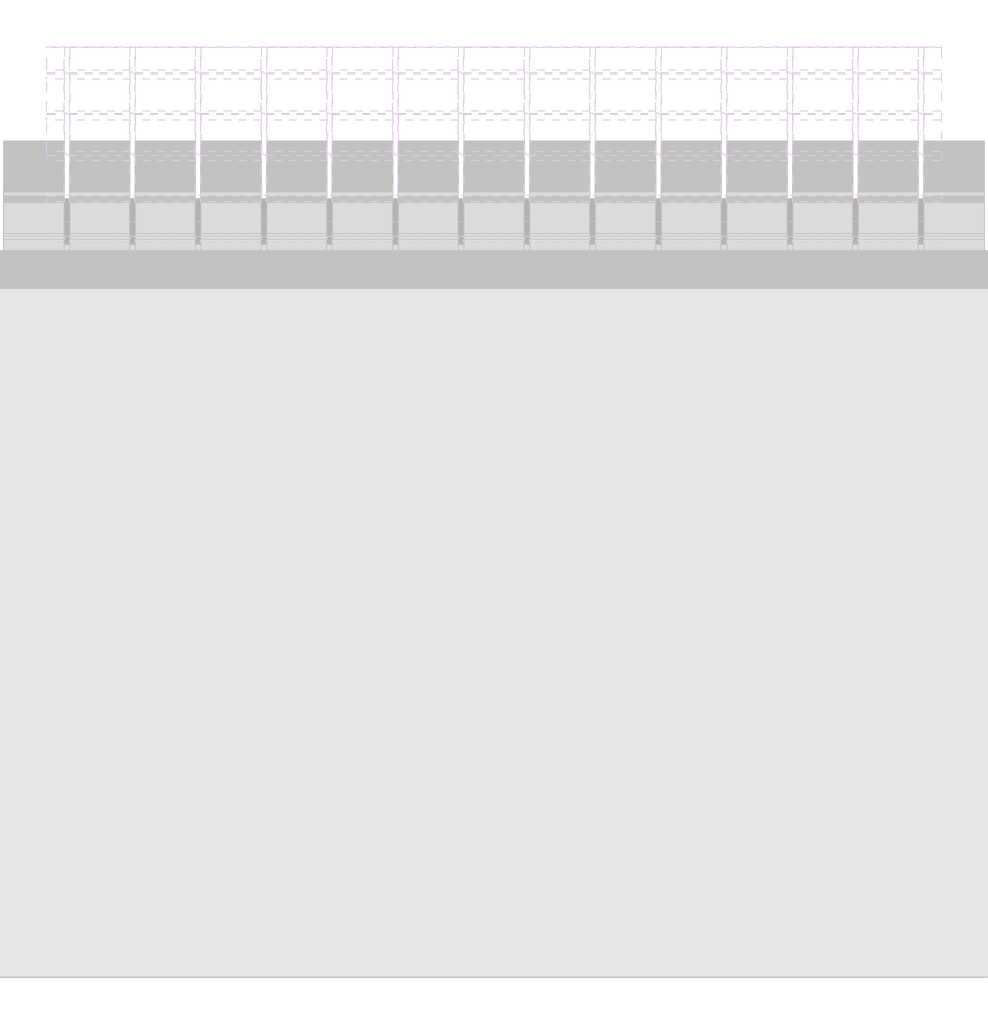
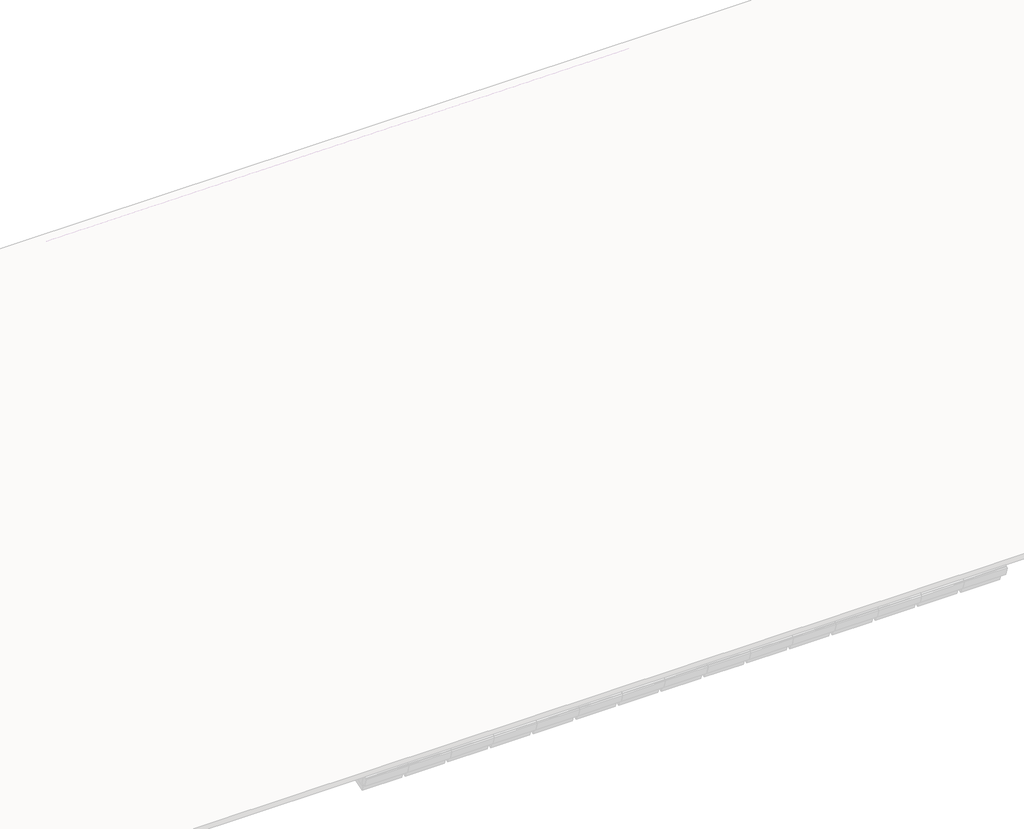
# One storey, part 34 of 57: 74 members, 50 plates.
"""IFC4 building model written with IfcOpenShell, lengths in millimetres."""

from ifc_helpers import new_model, si_unit, origin, place, context, project, spatial, transform, mapped, element, save
from components import rectangular_mullion_59984080, rectangular_mullion_2d2423ea, rectangular_mullion_caibro_e4384bba, rectangular_mullion_caibro_0993a3cf, rectangular_mullion_caibro_9bd7bc61, empty_system_panel_vazio_178faf58, empty_system_panel_vazio_2c78850d

model = new_model("IFC4")

# Units and contexts
model_context = context("Model", 3, world=origin())
ifc_project = project(units=[si_unit("LENGTHUNIT", "METRE", prefix="MILLI")], contexts=[model_context])

# Site, building, storey
site = spatial("IfcSite", under=ifc_project)
building = spatial("IfcBuilding", under=site)
storey = spatial("IfcBuildingStorey", under=building, Name="Nível 2", Elevation=4100.0)

# Members
placement = place(None, origin())
rectangular_mullion_shape = rectangular_mullion_59984080(model_context)
element("IfcMember", 1, ObjectType="Rectangular Mullion : Ripa", at=placement, inside=storey, context=model_context, shape_type="MappedRepresentation", body=[
    mapped(rectangular_mullion_shape, transform((26255.9256656, 8162.5832694, 3598.8241594), x_axis=(0.0, 0.9578262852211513, 0.2873478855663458), y_axis=(0.0, 0.2873478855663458, -0.9578262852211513), z_axis=(-1.0, 0.0, 0.0))),
])
element("IfcMember", 2, ObjectType="Rectangular Mullion : Ripa", at=placement, inside=storey, context=model_context, shape_type="MappedRepresentation", body=[
    mapped(rectangular_mullion_shape, transform((26852.980422, 8162.5832694, 3598.8241594), x_axis=(0.0, 0.9578262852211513, 0.2873478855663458), y_axis=(0.0, 0.2873478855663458, -0.9578262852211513), z_axis=(-1.0, 0.0, 0.0))),
])
element("IfcMember", 3, ObjectType="Rectangular Mullion : Ripa", at=placement, inside=storey, context=model_context, shape_type="MappedRepresentation", body=[
    mapped(rectangular_mullion_shape, transform((27450.0351784, 8162.5832694, 3598.8241594), x_axis=(0.0, 0.9578262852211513, 0.2873478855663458), y_axis=(0.0, 0.2873478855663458, -0.9578262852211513), z_axis=(-1.0, 0.0, 0.0))),
])
element("IfcMember", 4, ObjectType="Rectangular Mullion : Ripa", at=placement, inside=storey, context=model_context, shape_type="MappedRepresentation", body=[
    mapped(rectangular_mullion_shape, transform((26255.9256656, 8532.7605281, 3709.877337), x_axis=(0.0, 0.9578262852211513, 0.2873478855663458), y_axis=(0.0, 0.2873478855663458, -0.9578262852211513), z_axis=(-1.0, 0.0, 0.0))),
])
element("IfcMember", 5, ObjectType="Rectangular Mullion : Ripa", at=placement, inside=storey, context=model_context, shape_type="MappedRepresentation", body=[
    mapped(rectangular_mullion_shape, transform((26852.980422, 8532.7605281, 3709.877337), x_axis=(0.0, 0.9578262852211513, 0.2873478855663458), y_axis=(0.0, 0.2873478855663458, -0.9578262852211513), z_axis=(-1.0, 0.0, 0.0))),
])
element("IfcMember", 6, ObjectType="Rectangular Mullion : Ripa", at=placement, inside=storey, context=model_context, shape_type="MappedRepresentation", body=[
    mapped(rectangular_mullion_shape, transform((27450.0351784, 8532.7605281, 3709.877337), x_axis=(0.0, 0.9578262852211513, 0.2873478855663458), y_axis=(0.0, 0.2873478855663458, -0.9578262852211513), z_axis=(-1.0, 0.0, 0.0))),
])
element("IfcMember", 7, ObjectType="Rectangular Mullion : Ripa", at=placement, inside=storey, context=model_context, shape_type="MappedRepresentation", body=[
    mapped(rectangular_mullion_shape, transform((26255.9256656, 8902.9377868, 3820.9305146), x_axis=(0.0, 0.9578262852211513, 0.2873478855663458), y_axis=(0.0, 0.2873478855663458, -0.9578262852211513), z_axis=(-1.0, 0.0, 0.0))),
])
element("IfcMember", 8, ObjectType="Rectangular Mullion : Ripa", at=placement, inside=storey, context=model_context, shape_type="MappedRepresentation", body=[
    mapped(rectangular_mullion_shape, transform((26852.980422, 8902.9377868, 3820.9305146), x_axis=(0.0, 0.9578262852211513, 0.2873478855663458), y_axis=(0.0, 0.2873478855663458, -0.9578262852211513), z_axis=(-1.0, 0.0, 0.0))),
])
element("IfcMember", 9, ObjectType="Rectangular Mullion : Ripa", at=placement, inside=storey, context=model_context, shape_type="MappedRepresentation", body=[
    mapped(rectangular_mullion_shape, transform((27450.0351784, 8902.9377868, 3820.9305146), x_axis=(0.0, 0.9578262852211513, 0.2873478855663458), y_axis=(0.0, 0.2873478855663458, -0.9578262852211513), z_axis=(-1.0, 0.0, 0.0))),
])
element("IfcMember", 10, ObjectType="Rectangular Mullion : Ripa", at=placement, inside=storey, context=model_context, shape_type="MappedRepresentation", body=[
    mapped(rectangular_mullion_shape, transform((25061.8161527, 9273.1150454, 3931.9836922), x_axis=(0.0, 0.9578262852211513, 0.2873478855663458), y_axis=(0.0, 0.2873478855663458, -0.9578262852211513), z_axis=(-1.0, 0.0, 0.0))),
])
element("IfcMember", 11, ObjectType="Rectangular Mullion : Ripa", at=placement, inside=storey, context=model_context, shape_type="MappedRepresentation", body=[
    mapped(rectangular_mullion_shape, transform((25658.8709092, 9273.1150454, 3931.9836922), x_axis=(0.0, 0.9578262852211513, 0.2873478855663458), y_axis=(0.0, 0.2873478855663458, -0.9578262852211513), z_axis=(-1.0, 0.0, 0.0))),
])
element("IfcMember", 12, ObjectType="Rectangular Mullion : Ripa", at=placement, inside=storey, context=model_context, shape_type="MappedRepresentation", body=[
    mapped(rectangular_mullion_shape, transform((26255.9256656, 9273.1150454, 3931.9836922), x_axis=(0.0, 0.9578262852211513, 0.2873478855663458), y_axis=(0.0, 0.2873478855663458, -0.9578262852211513), z_axis=(-1.0, 0.0, 0.0))),
])
element("IfcMember", 13, ObjectType="Rectangular Mullion : Ripa", at=placement, inside=storey, context=model_context, shape_type="MappedRepresentation", body=[
    mapped(rectangular_mullion_shape, transform((26852.980422, 9273.1150454, 3931.9836922), x_axis=(0.0, 0.9578262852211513, 0.2873478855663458), y_axis=(0.0, 0.2873478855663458, -0.9578262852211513), z_axis=(-1.0, 0.0, 0.0))),
])
element("IfcMember", 14, ObjectType="Rectangular Mullion : Ripa", at=placement, inside=storey, context=model_context, shape_type="MappedRepresentation", body=[
    mapped(rectangular_mullion_shape, transform((27450.0351784, 9273.1150454, 3931.9836922), x_axis=(0.0, 0.9578262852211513, 0.2873478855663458), y_axis=(0.0, 0.2873478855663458, -0.9578262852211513), z_axis=(-1.0, 0.0, 0.0))),
])
element("IfcMember", 15, ObjectType="Rectangular Mullion : Ripa", at=placement, inside=storey, context=model_context, shape_type="MappedRepresentation", body=[
    mapped(rectangular_mullion_shape, transform((25061.8161527, 9643.2923041, 4043.0368698), x_axis=(0.0, 0.9578262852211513, 0.2873478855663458), y_axis=(0.0, 0.2873478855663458, -0.9578262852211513), z_axis=(-1.0, 0.0, 0.0))),
])
element("IfcMember", 16, ObjectType="Rectangular Mullion : Ripa", at=placement, inside=storey, context=model_context, shape_type="MappedRepresentation", body=[
    mapped(rectangular_mullion_shape, transform((25658.8709092, 9643.2923041, 4043.0368698), x_axis=(0.0, 0.9578262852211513, 0.2873478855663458), y_axis=(0.0, 0.2873478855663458, -0.9578262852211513), z_axis=(-1.0, 0.0, 0.0))),
])
element("IfcMember", 17, ObjectType="Rectangular Mullion : Ripa", at=placement, inside=storey, context=model_context, shape_type="MappedRepresentation", body=[
    mapped(rectangular_mullion_shape, transform((26255.9256656, 9643.2923041, 4043.0368698), x_axis=(0.0, 0.9578262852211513, 0.2873478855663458), y_axis=(0.0, 0.2873478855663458, -0.9578262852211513), z_axis=(-1.0, 0.0, 0.0))),
])
element("IfcMember", 18, ObjectType="Rectangular Mullion : Ripa", at=placement, inside=storey, context=model_context, shape_type="MappedRepresentation", body=[
    mapped(rectangular_mullion_shape, transform((26852.980422, 9643.2923041, 4043.0368698), x_axis=(0.0, 0.9578262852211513, 0.2873478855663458), y_axis=(0.0, 0.2873478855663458, -0.9578262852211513), z_axis=(-1.0, 0.0, 0.0))),
])
element("IfcMember", 19, ObjectType="Rectangular Mullion : Ripa", at=placement, inside=storey, context=model_context, shape_type="MappedRepresentation", body=[
    mapped(rectangular_mullion_shape, transform((27450.0351784, 9643.2923041, 4043.0368698), x_axis=(0.0, 0.9578262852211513, 0.2873478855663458), y_axis=(0.0, 0.2873478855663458, -0.9578262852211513), z_axis=(-1.0, 0.0, 0.0))),
])
element("IfcMember", 20, ObjectType="Rectangular Mullion : Ripa", at=placement, inside=storey, context=model_context, shape_type="MappedRepresentation", body=[
    mapped(rectangular_mullion_shape, transform((24464.7613963, 10013.4695628, 4154.0900474), x_axis=(0.0, 0.9578262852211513, 0.2873478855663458), y_axis=(0.0, 0.2873478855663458, -0.9578262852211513), z_axis=(-1.0, 0.0, 0.0))),
])
element("IfcMember", 21, ObjectType="Rectangular Mullion : Ripa", at=placement, inside=storey, context=model_context, shape_type="MappedRepresentation", body=[
    mapped(rectangular_mullion_shape, transform((25061.8161527, 10013.4695628, 4154.0900474), x_axis=(0.0, 0.9578262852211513, 0.2873478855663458), y_axis=(0.0, 0.2873478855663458, -0.9578262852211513), z_axis=(-1.0, 0.0, 0.0))),
])
element("IfcMember", 22, ObjectType="Rectangular Mullion : Ripa", at=placement, inside=storey, context=model_context, shape_type="MappedRepresentation", body=[
    mapped(rectangular_mullion_shape, transform((25658.8709092, 10013.4695628, 4154.0900474), x_axis=(0.0, 0.9578262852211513, 0.2873478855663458), y_axis=(0.0, 0.2873478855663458, -0.9578262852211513), z_axis=(-1.0, 0.0, 0.0))),
])
element("IfcMember", 23, ObjectType="Rectangular Mullion : Ripa", at=placement, inside=storey, context=model_context, shape_type="MappedRepresentation", body=[
    mapped(rectangular_mullion_shape, transform((24464.7613963, 10383.6468214, 4265.143225), x_axis=(0.0, 0.9578262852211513, 0.2873478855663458), y_axis=(0.0, 0.2873478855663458, -0.9578262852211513), z_axis=(-1.0, 0.0, 0.0))),
])
element("IfcMember", 24, ObjectType="Rectangular Mullion : Ripa", at=placement, inside=storey, context=model_context, shape_type="MappedRepresentation", body=[
    mapped(rectangular_mullion_shape, transform((25061.8161527, 10383.6468214, 4265.143225), x_axis=(0.0, 0.9578262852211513, 0.2873478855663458), y_axis=(0.0, 0.2873478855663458, -0.9578262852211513), z_axis=(-1.0, 0.0, 0.0))),
])
element("IfcMember", 25, ObjectType="Rectangular Mullion : Ripa", at=placement, inside=storey, context=model_context, shape_type="MappedRepresentation", body=[
    mapped(rectangular_mullion_shape, transform((25658.8709092, 10383.6468214, 4265.143225), x_axis=(0.0, 0.9578262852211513, 0.2873478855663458), y_axis=(0.0, 0.2873478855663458, -0.9578262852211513), z_axis=(-1.0, 0.0, 0.0))),
])
element("IfcMember", 26, ObjectType="Rectangular Mullion : Ripa", at=placement, inside=storey, context=model_context, shape_type="MappedRepresentation", body=[
    mapped(rectangular_mullion_shape, transform((24464.7613963, 10753.8240801, 4376.1964026), x_axis=(0.0, 0.9578262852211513, 0.2873478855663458), y_axis=(0.0, 0.2873478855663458, -0.9578262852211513), z_axis=(-1.0, 0.0, 0.0))),
])
element("IfcMember", 27, ObjectType="Rectangular Mullion : Ripa", at=placement, inside=storey, context=model_context, shape_type="MappedRepresentation", body=[
    mapped(rectangular_mullion_shape, transform((25061.8161527, 10753.8240801, 4376.1964026), x_axis=(0.0, 0.9578262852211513, 0.2873478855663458), y_axis=(0.0, 0.2873478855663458, -0.9578262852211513), z_axis=(-1.0, 0.0, 0.0))),
])
element("IfcMember", 28, ObjectType="Rectangular Mullion : Ripa", at=placement, inside=storey, context=model_context, shape_type="MappedRepresentation", body=[
    mapped(rectangular_mullion_shape, transform((25658.8709092, 10753.8240801, 4376.1964026), x_axis=(0.0, 0.9578262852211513, 0.2873478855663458), y_axis=(0.0, 0.2873478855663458, -0.9578262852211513), z_axis=(-1.0, 0.0, 0.0))),
])
element("IfcMember", 29, ObjectType="Rectangular Mullion : Ripa", at=placement, inside=storey, context=model_context, shape_type="MappedRepresentation", body=[
    mapped(rectangular_mullion_shape, transform((24464.7613963, 11124.0013387, 4487.2495802), x_axis=(0.0, 0.9578262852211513, 0.2873478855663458), y_axis=(0.0, 0.2873478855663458, -0.9578262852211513), z_axis=(-1.0, 0.0, 0.0))),
])
element("IfcMember", 30, ObjectType="Rectangular Mullion : Ripa", at=placement, inside=storey, context=model_context, shape_type="MappedRepresentation", body=[
    mapped(rectangular_mullion_shape, transform((24464.7613963, 11494.1785974, 4598.3027578), x_axis=(0.0, 0.9578262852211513, 0.2873478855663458), y_axis=(0.0, 0.2873478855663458, -0.9578262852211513), z_axis=(-1.0, 0.0, 0.0))),
])
element("IfcMember", 31, ObjectType="Rectangular Mullion : Ripa", at=placement, inside=storey, context=model_context, shape_type="MappedRepresentation", body=[
    mapped(rectangular_mullion_shape, transform((24464.7613963, 11864.3558561, 4709.3559354), x_axis=(0.0, 0.9578262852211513, 0.2873478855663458), y_axis=(0.0, 0.2873478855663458, -0.9578262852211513), z_axis=(-1.0, 0.0, 0.0))),
])
rectangular_mullion_2_shape = rectangular_mullion_2d2423ea(model_context)
element("IfcMember", 32, ObjectType="Rectangular Mullion : Terça", at=placement, inside=storey, context=model_context, shape_type="MappedRepresentation", body=[
    mapped(rectangular_mullion_2_shape, transform((25061.8161527, 9159.0196393, 3835.1132313), x_axis=(0.0, 0.9578262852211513, 0.2873478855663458), y_axis=(0.0, 0.2873478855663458, -0.9578262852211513), z_axis=(-1.0, 0.0, 0.0))),
])
element("IfcMember", 33, ObjectType="Rectangular Mullion : Terça", at=placement, inside=storey, context=model_context, shape_type="MappedRepresentation", body=[
    mapped(rectangular_mullion_2_shape, transform((25658.8709092, 9159.0196393, 3835.1132313), x_axis=(0.0, 0.9578262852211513, 0.2873478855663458), y_axis=(0.0, 0.2873478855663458, -0.9578262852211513), z_axis=(-1.0, 0.0, 0.0))),
])
element("IfcMember", 34, ObjectType="Rectangular Mullion : Terça", at=placement, inside=storey, context=model_context, shape_type="MappedRepresentation", body=[
    mapped(rectangular_mullion_2_shape, transform((26255.9256656, 9159.0196393, 3835.1132313), x_axis=(0.0, 0.9578262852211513, 0.2873478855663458), y_axis=(0.0, 0.2873478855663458, -0.9578262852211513), z_axis=(-1.0, 0.0, 0.0))),
])
element("IfcMember", 35, ObjectType="Rectangular Mullion : Terça", at=placement, inside=storey, context=model_context, shape_type="MappedRepresentation", body=[
    mapped(rectangular_mullion_2_shape, transform((26852.980422, 9159.0196393, 3835.1132313), x_axis=(0.0, 0.9578262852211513, 0.2873478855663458), y_axis=(0.0, 0.2873478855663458, -0.9578262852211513), z_axis=(-1.0, 0.0, 0.0))),
])
element("IfcMember", 36, ObjectType="Rectangular Mullion : Terça", at=placement, inside=storey, context=model_context, shape_type="MappedRepresentation", body=[
    mapped(rectangular_mullion_2_shape, transform((27450.0351784, 9159.0196393, 3835.1132313), x_axis=(0.0, 0.9578262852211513, 0.2873478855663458), y_axis=(0.0, 0.2873478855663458, -0.9578262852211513), z_axis=(-1.0, 0.0, 0.0))),
])
element("IfcMember", 37, ObjectType="Rectangular Mullion : Terça", at=placement, inside=storey, context=model_context, shape_type="MappedRepresentation", body=[
    mapped(rectangular_mullion_2_shape, transform((24464.7613963, 11285.144311, 4472.9506328), x_axis=(0.0, 0.9578262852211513, 0.2873478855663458), y_axis=(0.0, 0.2873478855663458, -0.9578262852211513), z_axis=(-1.0, 0.0, 0.0))),
])
rectangular_mullion_caibro_shape = rectangular_mullion_caibro_e4384bba(model_context)
element("IfcMember", 38, ObjectType="Rectangular Mullion : Caibro", at=placement, inside=storey, context=model_context, shape_type="MappedRepresentation", body=[
    mapped(rectangular_mullion_caibro_shape, transform((24439.7613963, 10013.4695628, 4154.0900474), x_axis=(1.0, 0.0, 0.0), y_axis=(0.0, 0.2873478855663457, -0.9578262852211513), z_axis=(0.0, 0.9578262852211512, 0.28734788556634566))),
])
element("IfcMember", 39, ObjectType="Rectangular Mullion : Caibro", at=placement, inside=storey, context=model_context, shape_type="MappedRepresentation", body=[
    mapped(rectangular_mullion_caibro_shape, transform((24439.7613963, 10383.6468214, 4265.143225), x_axis=(1.0, 0.0, 0.0), y_axis=(0.0, 0.28734788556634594, -0.9578262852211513), z_axis=(0.0, 0.9578262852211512, 0.2873478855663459))),
])
element("IfcMember", 40, ObjectType="Rectangular Mullion : Caibro", at=placement, inside=storey, context=model_context, shape_type="MappedRepresentation", body=[
    mapped(rectangular_mullion_caibro_shape, transform((24439.7613963, 10753.8240801, 4376.1964026), x_axis=(1.0, 0.0, 0.0), y_axis=(0.0, 0.28734788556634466, -0.9578262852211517), z_axis=(0.0, 0.9578262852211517, 0.28734788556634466))),
])
element("IfcMember", 41, ObjectType="Rectangular Mullion : Caibro", at=placement, inside=storey, context=model_context, shape_type="MappedRepresentation", body=[
    mapped(rectangular_mullion_caibro_shape, transform((24439.7613963, 11124.0013387, 4487.2495802), x_axis=(1.0, 0.0, 0.0), y_axis=(0.0, 0.28734788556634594, -0.9578262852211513), z_axis=(0.0, 0.9578262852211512, 0.2873478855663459))),
])
element("IfcMember", 42, ObjectType="Rectangular Mullion : Caibro", at=placement, inside=storey, context=model_context, shape_type="MappedRepresentation", body=[
    mapped(rectangular_mullion_caibro_shape, transform((24439.7613963, 11494.1785974, 4598.3027578), x_axis=(1.0, 0.0, 0.0), y_axis=(0.0, 0.287347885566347, -0.9578262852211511), z_axis=(0.0, 0.9578262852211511, 0.287347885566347))),
])
element("IfcMember", 43, ObjectType="Rectangular Mullion : Caibro", at=placement, inside=storey, context=model_context, shape_type="MappedRepresentation", body=[
    mapped(rectangular_mullion_caibro_shape, transform((24439.7613963, 11864.3558561, 4709.3559354), x_axis=(1.0, 0.0, 0.0), y_axis=(0.0, 0.28734788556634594, -0.9578262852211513), z_axis=(0.0, 0.9578262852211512, 0.2873478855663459))),
])
element("IfcMember", 44, ObjectType="Rectangular Mullion : Caibro", at=placement, inside=storey, context=model_context, shape_type="MappedRepresentation", body=[
    mapped(rectangular_mullion_caibro_shape, transform((25036.8161527, 9273.1150454, 3931.9836922), x_axis=(1.0, 0.0, 0.0), y_axis=(0.0, 0.2873478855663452, -0.9578262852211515), z_axis=(0.0, 0.9578262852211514, 0.28734788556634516))),
])
element("IfcMember", 45, ObjectType="Rectangular Mullion : Caibro", at=placement, inside=storey, context=model_context, shape_type="MappedRepresentation", body=[
    mapped(rectangular_mullion_caibro_shape, transform((25036.8161527, 9643.2923041, 4043.0368698), x_axis=(1.0, 0.0, 0.0), y_axis=(0.0, 0.28734788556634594, -0.9578262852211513), z_axis=(0.0, 0.9578262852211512, 0.2873478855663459))),
])
element("IfcMember", 46, ObjectType="Rectangular Mullion : Caibro", at=placement, inside=storey, context=model_context, shape_type="MappedRepresentation", body=[
    mapped(rectangular_mullion_caibro_shape, transform((25036.8161527, 10013.4695628, 4154.0900474), x_axis=(1.0, 0.0, 0.0), y_axis=(0.0, 0.2873478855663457, -0.9578262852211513), z_axis=(0.0, 0.9578262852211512, 0.28734788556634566))),
])
element("IfcMember", 47, ObjectType="Rectangular Mullion : Caibro", at=placement, inside=storey, context=model_context, shape_type="MappedRepresentation", body=[
    mapped(rectangular_mullion_caibro_shape, transform((25036.8161527, 10383.6468214, 4265.143225), x_axis=(1.0, 0.0, 0.0), y_axis=(0.0, 0.28734788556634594, -0.9578262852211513), z_axis=(0.0, 0.9578262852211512, 0.2873478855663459))),
])
element("IfcMember", 48, ObjectType="Rectangular Mullion : Caibro", at=placement, inside=storey, context=model_context, shape_type="MappedRepresentation", body=[
    mapped(rectangular_mullion_caibro_shape, transform((25036.8161527, 10753.8240801, 4376.1964026), x_axis=(1.0, 0.0, 0.0), y_axis=(0.0, 0.28734788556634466, -0.9578262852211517), z_axis=(0.0, 0.9578262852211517, 0.28734788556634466))),
])
element("IfcMember", 49, ObjectType="Rectangular Mullion : Caibro", at=placement, inside=storey, context=model_context, shape_type="MappedRepresentation", body=[
    mapped(rectangular_mullion_caibro_shape, transform((25633.8709092, 9273.1150454, 3931.9836922), x_axis=(1.0, 0.0, 0.0), y_axis=(0.0, 0.2873478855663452, -0.9578262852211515), z_axis=(0.0, 0.9578262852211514, 0.28734788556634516))),
])
element("IfcMember", 50, ObjectType="Rectangular Mullion : Caibro", at=placement, inside=storey, context=model_context, shape_type="MappedRepresentation", body=[
    mapped(rectangular_mullion_caibro_shape, transform((25633.8709092, 9643.2923041, 4043.0368698), x_axis=(1.0, 0.0, 0.0), y_axis=(0.0, 0.2873478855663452, -0.9578262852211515), z_axis=(0.0, 0.9578262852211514, 0.28734788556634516))),
])
element("IfcMember", 51, ObjectType="Rectangular Mullion : Caibro", at=placement, inside=storey, context=model_context, shape_type="MappedRepresentation", body=[
    mapped(rectangular_mullion_caibro_shape, transform((25633.8709092, 10013.4695628, 4154.0900474), x_axis=(1.0, 0.0, 0.0), y_axis=(0.0, 0.28734788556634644, -0.9578262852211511), z_axis=(0.0, 0.957826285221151, 0.2873478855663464))),
])
element("IfcMember", 52, ObjectType="Rectangular Mullion : Caibro", at=placement, inside=storey, context=model_context, shape_type="MappedRepresentation", body=[
    mapped(rectangular_mullion_caibro_shape, transform((25633.8709092, 10383.6468214, 4265.143225), x_axis=(1.0, 0.0, 0.0), y_axis=(0.0, 0.28734788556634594, -0.9578262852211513), z_axis=(0.0, 0.9578262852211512, 0.2873478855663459))),
])
element("IfcMember", 53, ObjectType="Rectangular Mullion : Caibro", at=placement, inside=storey, context=model_context, shape_type="MappedRepresentation", body=[
    mapped(rectangular_mullion_caibro_shape, transform((25633.8709092, 10753.8240801, 4376.1964026), x_axis=(1.0, 0.0, 0.0), y_axis=(0.0, 0.28734788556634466, -0.9578262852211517), z_axis=(0.0, 0.9578262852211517, 0.28734788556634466))),
])
element("IfcMember", 54, ObjectType="Rectangular Mullion : Caibro", at=placement, inside=storey, context=model_context, shape_type="MappedRepresentation", body=[
    mapped(rectangular_mullion_caibro_shape, transform((26230.9256656, 8162.5832694, 3598.8241594), x_axis=(1.0, 0.0, 0.0), y_axis=(0.0, 0.28734788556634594, -0.9578262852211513), z_axis=(0.0, 0.9578262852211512, 0.2873478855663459))),
])
element("IfcMember", 55, ObjectType="Rectangular Mullion : Caibro", at=placement, inside=storey, context=model_context, shape_type="MappedRepresentation", body=[
    mapped(rectangular_mullion_caibro_shape, transform((26230.9256656, 8532.7605281, 3709.877337), x_axis=(1.0, 0.0, 0.0), y_axis=(0.0, 0.2873478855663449, -0.9578262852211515), z_axis=(0.0, 0.9578262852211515, 0.2873478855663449))),
])
element("IfcMember", 56, ObjectType="Rectangular Mullion : Caibro", at=placement, inside=storey, context=model_context, shape_type="MappedRepresentation", body=[
    mapped(rectangular_mullion_caibro_shape, transform((26230.9256656, 8902.9377868, 3820.9305146), x_axis=(1.0, 0.0, 0.0), y_axis=(0.0, 0.2873478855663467, -0.9578262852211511), z_axis=(0.0, 0.9578262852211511, 0.2873478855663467))),
])
element("IfcMember", 57, ObjectType="Rectangular Mullion : Caibro", at=placement, inside=storey, context=model_context, shape_type="MappedRepresentation", body=[
    mapped(rectangular_mullion_caibro_shape, transform((26230.9256656, 9273.1150454, 3931.9836922), x_axis=(1.0, 0.0, 0.0), y_axis=(0.0, 0.2873478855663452, -0.9578262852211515), z_axis=(0.0, 0.9578262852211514, 0.28734788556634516))),
])
element("IfcMember", 58, ObjectType="Rectangular Mullion : Caibro", at=placement, inside=storey, context=model_context, shape_type="MappedRepresentation", body=[
    mapped(rectangular_mullion_caibro_shape, transform((26230.9256656, 9643.2923041, 4043.0368698), x_axis=(1.0, 0.0, 0.0), y_axis=(0.0, 0.2873478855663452, -0.9578262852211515), z_axis=(0.0, 0.9578262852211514, 0.28734788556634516))),
])
element("IfcMember", 59, ObjectType="Rectangular Mullion : Caibro", at=placement, inside=storey, context=model_context, shape_type="MappedRepresentation", body=[
    mapped(rectangular_mullion_caibro_shape, transform((26827.980422, 8162.5832694, 3598.8241594), x_axis=(1.0, 0.0, 0.0), y_axis=(0.0, 0.28734788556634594, -0.9578262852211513), z_axis=(0.0, 0.9578262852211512, 0.2873478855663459))),
])
element("IfcMember", 60, ObjectType="Rectangular Mullion : Caibro", at=placement, inside=storey, context=model_context, shape_type="MappedRepresentation", body=[
    mapped(rectangular_mullion_caibro_shape, transform((26827.980422, 8532.7605281, 3709.877337), x_axis=(1.0, 0.0, 0.0), y_axis=(0.0, 0.2873478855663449, -0.9578262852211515), z_axis=(0.0, 0.9578262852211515, 0.2873478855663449))),
])
element("IfcMember", 61, ObjectType="Rectangular Mullion : Caibro", at=placement, inside=storey, context=model_context, shape_type="MappedRepresentation", body=[
    mapped(rectangular_mullion_caibro_shape, transform((26827.980422, 8902.9377868, 3820.9305146), x_axis=(1.0, 0.0, 0.0), y_axis=(0.0, 0.2873478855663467, -0.9578262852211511), z_axis=(0.0, 0.9578262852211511, 0.2873478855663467))),
])
element("IfcMember", 62, ObjectType="Rectangular Mullion : Caibro", at=placement, inside=storey, context=model_context, shape_type="MappedRepresentation", body=[
    mapped(rectangular_mullion_caibro_shape, transform((26827.980422, 9273.1150454, 3931.9836922), x_axis=(1.0, 0.0, 0.0), y_axis=(0.0, 0.2873478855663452, -0.9578262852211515), z_axis=(0.0, 0.9578262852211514, 0.28734788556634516))),
])
element("IfcMember", 63, ObjectType="Rectangular Mullion : Caibro", at=placement, inside=storey, context=model_context, shape_type="MappedRepresentation", body=[
    mapped(rectangular_mullion_caibro_shape, transform((26827.980422, 9643.2923041, 4043.0368698), x_axis=(1.0, 0.0, 0.0), y_axis=(0.0, 0.2873478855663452, -0.9578262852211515), z_axis=(0.0, 0.9578262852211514, 0.28734788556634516))),
])
element("IfcMember", 64, ObjectType="Rectangular Mullion : Caibro", at=placement, inside=storey, context=model_context, shape_type="MappedRepresentation", body=[
    mapped(rectangular_mullion_caibro_shape, transform((27425.0351784, 8162.5832694, 3598.8241594), x_axis=(1.0, 0.0, 0.0), y_axis=(0.0, 0.28734788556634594, -0.9578262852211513), z_axis=(0.0, 0.9578262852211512, 0.2873478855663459))),
])
element("IfcMember", 65, ObjectType="Rectangular Mullion : Caibro", at=placement, inside=storey, context=model_context, shape_type="MappedRepresentation", body=[
    mapped(rectangular_mullion_caibro_shape, transform((27425.0351784, 8532.7605281, 3709.877337), x_axis=(1.0, 0.0, 0.0), y_axis=(0.0, 0.2873478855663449, -0.9578262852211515), z_axis=(0.0, 0.9578262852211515, 0.2873478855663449))),
])
element("IfcMember", 66, ObjectType="Rectangular Mullion : Caibro", at=placement, inside=storey, context=model_context, shape_type="MappedRepresentation", body=[
    mapped(rectangular_mullion_caibro_shape, transform((27425.0351784, 8902.9377868, 3820.9305146), x_axis=(1.0, 0.0, 0.0), y_axis=(0.0, 0.2873478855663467, -0.9578262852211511), z_axis=(0.0, 0.9578262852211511, 0.2873478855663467))),
])
element("IfcMember", 67, ObjectType="Rectangular Mullion : Caibro", at=placement, inside=storey, context=model_context, shape_type="MappedRepresentation", body=[
    mapped(rectangular_mullion_caibro_shape, transform((27425.0351784, 9273.1150454, 3931.9836922), x_axis=(1.0, 0.0, 0.0), y_axis=(0.0, 0.2873478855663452, -0.9578262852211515), z_axis=(0.0, 0.9578262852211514, 0.28734788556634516))),
])
element("IfcMember", 68, ObjectType="Rectangular Mullion : Caibro", at=placement, inside=storey, context=model_context, shape_type="MappedRepresentation", body=[
    mapped(rectangular_mullion_caibro_shape, transform((27425.0351784, 9643.2923041, 4043.0368698), x_axis=(1.0, 0.0, 0.0), y_axis=(0.0, 0.28734788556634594, -0.9578262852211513), z_axis=(0.0, 0.9578262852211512, 0.2873478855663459))),
])
rectangular_mullion_caibro_2_shape = rectangular_mullion_caibro_0993a3cf(model_context)
element("IfcMember", 69, ObjectType="Rectangular Mullion : Caibro", at=placement, inside=storey, context=model_context, shape_type="MappedRepresentation", body=[
    mapped(rectangular_mullion_caibro_2_shape, transform((25036.8161527, 9159.0196393, 3835.1132313), x_axis=(1.0, 0.0, 0.0), y_axis=(0.0, 0.28734788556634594, -0.9578262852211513), z_axis=(0.0, 0.9578262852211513, 0.28734788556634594))),
])
element("IfcMember", 70, ObjectType="Rectangular Mullion : Caibro", at=placement, inside=storey, context=model_context, shape_type="MappedRepresentation", body=[
    mapped(rectangular_mullion_caibro_2_shape, transform((25633.8709092, 9159.0196393, 3835.1132313), x_axis=(1.0, 0.0, 0.0), y_axis=(0.0, 0.2873478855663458, -0.9578262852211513), z_axis=(0.0, 0.9578262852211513, 0.2873478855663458))),
])
element("IfcMember", 71, ObjectType="Rectangular Mullion : Caibro", at=placement, inside=storey, context=model_context, shape_type="MappedRepresentation", body=[
    mapped(rectangular_mullion_caibro_2_shape, transform((26230.9256656, 9159.0196393, 3835.1132313), x_axis=(1.0, 0.0, 0.0), y_axis=(0.0, 0.2873478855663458, -0.9578262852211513), z_axis=(0.0, 0.9578262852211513, 0.2873478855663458))),
])
element("IfcMember", 72, ObjectType="Rectangular Mullion : Caibro", at=placement, inside=storey, context=model_context, shape_type="MappedRepresentation", body=[
    mapped(rectangular_mullion_caibro_2_shape, transform((26827.980422, 9159.0196393, 3835.1132313), x_axis=(1.0, 0.0, 0.0), y_axis=(0.0, 0.2873478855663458, -0.9578262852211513), z_axis=(0.0, 0.9578262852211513, 0.2873478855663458))),
])
element("IfcMember", 73, ObjectType="Rectangular Mullion : Caibro", at=placement, inside=storey, context=model_context, shape_type="MappedRepresentation", body=[
    mapped(rectangular_mullion_caibro_2_shape, transform((27425.0351784, 9159.0196393, 3835.1132313), x_axis=(1.0, 0.0, 0.0), y_axis=(0.0, 0.28734788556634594, -0.9578262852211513), z_axis=(0.0, 0.9578262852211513, 0.28734788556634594))),
])
rectangular_mullion_caibro_3_shape = rectangular_mullion_caibro_9bd7bc61(model_context)
element("IfcMember", 74, ObjectType="Rectangular Mullion : Caibro", at=placement, inside=storey, context=model_context, shape_type="MappedRepresentation", body=[
    mapped(rectangular_mullion_caibro_3_shape, transform((24439.7613963, 11285.144311, 4472.9506328), x_axis=(1.0, 0.0, 0.0), y_axis=(0.0, 0.28734788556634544, -0.9578262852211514), z_axis=(0.0, 0.9578262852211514, 0.28734788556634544))),
])

# Plates
empty_system_panel_vazio_shape = empty_system_panel_vazio_178faf58(model_context)
element("IfcPlate", 75, ObjectType="Empty System Panel : Vazio", at=placement, inside=storey, context=model_context, shape_type="MappedRepresentation", body=[
    mapped(empty_system_panel_vazio_shape, transform((26529.4530438, 8162.5832694, 3598.8241594), x_axis=(1.0, 0.0, 0.0), y_axis=(0.0, 0.2873478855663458, -0.9578262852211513), z_axis=(0.0, 0.9578262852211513, 0.2873478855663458))),
])
element("IfcPlate", 76, ObjectType="Empty System Panel : Vazio", at=placement, inside=storey, context=model_context, shape_type="MappedRepresentation", body=[
    mapped(empty_system_panel_vazio_shape, transform((27126.5078002, 8162.5832694, 3598.8241594), x_axis=(1.0, 0.0, 0.0), y_axis=(0.0, 0.2873478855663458, -0.9578262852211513), z_axis=(0.0, 0.9578262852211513, 0.2873478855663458))),
])
element("IfcPlate", 77, ObjectType="Empty System Panel : Vazio", at=placement, inside=storey, context=model_context, shape_type="MappedRepresentation", body=[
    mapped(empty_system_panel_vazio_shape, transform((27723.5625566, 8162.5832694, 3598.8241594), x_axis=(1.0, 0.0, 0.0), y_axis=(0.0, 0.2873478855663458, -0.9578262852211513), z_axis=(0.0, 0.9578262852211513, 0.2873478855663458))),
])
element("IfcPlate", 78, ObjectType="Empty System Panel : Vazio", at=placement, inside=storey, context=model_context, shape_type="MappedRepresentation", body=[
    mapped(empty_system_panel_vazio_shape, transform((26529.4530438, 8532.7605281, 3709.877337), x_axis=(1.0, 0.0, 0.0), y_axis=(0.0, 0.2873478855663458, -0.9578262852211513), z_axis=(0.0, 0.9578262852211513, 0.2873478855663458))),
])
element("IfcPlate", 79, ObjectType="Empty System Panel : Vazio", at=placement, inside=storey, context=model_context, shape_type="MappedRepresentation", body=[
    mapped(empty_system_panel_vazio_shape, transform((27126.5078002, 8532.7605281, 3709.877337), x_axis=(1.0, 0.0, 0.0), y_axis=(0.0, 0.2873478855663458, -0.9578262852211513), z_axis=(0.0, 0.9578262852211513, 0.2873478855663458))),
])
element("IfcPlate", 80, ObjectType="Empty System Panel : Vazio", at=placement, inside=storey, context=model_context, shape_type="MappedRepresentation", body=[
    mapped(empty_system_panel_vazio_shape, transform((27723.5625566, 8532.7605281, 3709.877337), x_axis=(1.0, 0.0, 0.0), y_axis=(0.0, 0.2873478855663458, -0.9578262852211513), z_axis=(0.0, 0.9578262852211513, 0.2873478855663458))),
])
element("IfcPlate", 81, ObjectType="Empty System Panel : Vazio", at=placement, inside=storey, context=model_context, shape_type="MappedRepresentation", body=[
    mapped(empty_system_panel_vazio_shape, transform((26529.4530438, 8902.9377868, 3820.9305146), x_axis=(1.0, 0.0, 0.0), y_axis=(0.0, 0.2873478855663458, -0.9578262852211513), z_axis=(0.0, 0.9578262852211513, 0.2873478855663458))),
])
element("IfcPlate", 82, ObjectType="Empty System Panel : Vazio", at=placement, inside=storey, context=model_context, shape_type="MappedRepresentation", body=[
    mapped(empty_system_panel_vazio_shape, transform((27126.5078002, 8902.9377868, 3820.9305146), x_axis=(1.0, 0.0, 0.0), y_axis=(0.0, 0.2873478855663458, -0.9578262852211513), z_axis=(0.0, 0.9578262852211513, 0.2873478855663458))),
])
element("IfcPlate", 83, ObjectType="Empty System Panel : Vazio", at=placement, inside=storey, context=model_context, shape_type="MappedRepresentation", body=[
    mapped(empty_system_panel_vazio_shape, transform((27723.5625566, 8902.9377868, 3820.9305146), x_axis=(1.0, 0.0, 0.0), y_axis=(0.0, 0.2873478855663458, -0.9578262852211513), z_axis=(0.0, 0.9578262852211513, 0.2873478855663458))),
])
element("IfcPlate", 84, ObjectType="Empty System Panel : Vazio", at=placement, inside=storey, context=model_context, shape_type="MappedRepresentation", body=[
    mapped(empty_system_panel_vazio_shape, transform((25335.3435309, 9273.1150454, 3931.9836922), x_axis=(1.0, 0.0, 0.0), y_axis=(0.0, 0.2873478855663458, -0.9578262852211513), z_axis=(0.0, 0.9578262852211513, 0.2873478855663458))),
])
element("IfcPlate", 85, ObjectType="Empty System Panel : Vazio", at=placement, inside=storey, context=model_context, shape_type="MappedRepresentation", body=[
    mapped(empty_system_panel_vazio_shape, transform((25932.3982874, 9273.1150454, 3931.9836922), x_axis=(1.0, 0.0, 0.0), y_axis=(0.0, 0.2873478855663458, -0.9578262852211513), z_axis=(0.0, 0.9578262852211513, 0.2873478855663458))),
])
element("IfcPlate", 86, ObjectType="Empty System Panel : Vazio", at=placement, inside=storey, context=model_context, shape_type="MappedRepresentation", body=[
    mapped(empty_system_panel_vazio_shape, transform((26529.4530438, 9273.1150454, 3931.9836922), x_axis=(1.0, 0.0, 0.0), y_axis=(0.0, 0.2873478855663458, -0.9578262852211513), z_axis=(0.0, 0.9578262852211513, 0.2873478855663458))),
])
element("IfcPlate", 87, ObjectType="Empty System Panel : Vazio", at=placement, inside=storey, context=model_context, shape_type="MappedRepresentation", body=[
    mapped(empty_system_panel_vazio_shape, transform((27126.5078002, 9273.1150454, 3931.9836922), x_axis=(1.0, 0.0, 0.0), y_axis=(0.0, 0.2873478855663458, -0.9578262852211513), z_axis=(0.0, 0.9578262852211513, 0.2873478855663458))),
])
element("IfcPlate", 88, ObjectType="Empty System Panel : Vazio", at=placement, inside=storey, context=model_context, shape_type="MappedRepresentation", body=[
    mapped(empty_system_panel_vazio_shape, transform((27723.5625566, 9273.1150454, 3931.9836922), x_axis=(1.0, 0.0, 0.0), y_axis=(0.0, 0.2873478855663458, -0.9578262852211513), z_axis=(0.0, 0.9578262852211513, 0.2873478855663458))),
])
element("IfcPlate", 89, ObjectType="Empty System Panel : Vazio", at=placement, inside=storey, context=model_context, shape_type="MappedRepresentation", body=[
    mapped(empty_system_panel_vazio_shape, transform((25335.3435309, 9643.2923041, 4043.0368698), x_axis=(1.0, 0.0, 0.0), y_axis=(0.0, 0.2873478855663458, -0.9578262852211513), z_axis=(0.0, 0.9578262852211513, 0.2873478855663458))),
])
element("IfcPlate", 90, ObjectType="Empty System Panel : Vazio", at=placement, inside=storey, context=model_context, shape_type="MappedRepresentation", body=[
    mapped(empty_system_panel_vazio_shape, transform((25932.3982874, 9643.2923041, 4043.0368698), x_axis=(1.0, 0.0, 0.0), y_axis=(0.0, 0.2873478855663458, -0.9578262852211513), z_axis=(0.0, 0.9578262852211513, 0.2873478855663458))),
])
element("IfcPlate", 91, ObjectType="Empty System Panel : Vazio", at=placement, inside=storey, context=model_context, shape_type="MappedRepresentation", body=[
    mapped(empty_system_panel_vazio_shape, transform((26529.4530438, 9643.2923041, 4043.0368698), x_axis=(1.0, 0.0, 0.0), y_axis=(0.0, 0.2873478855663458, -0.9578262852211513), z_axis=(0.0, 0.9578262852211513, 0.2873478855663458))),
])
element("IfcPlate", 92, ObjectType="Empty System Panel : Vazio", at=placement, inside=storey, context=model_context, shape_type="MappedRepresentation", body=[
    mapped(empty_system_panel_vazio_shape, transform((27126.5078002, 9643.2923041, 4043.0368698), x_axis=(1.0, 0.0, 0.0), y_axis=(0.0, 0.2873478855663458, -0.9578262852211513), z_axis=(0.0, 0.9578262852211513, 0.2873478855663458))),
])
element("IfcPlate", 93, ObjectType="Empty System Panel : Vazio", at=placement, inside=storey, context=model_context, shape_type="MappedRepresentation", body=[
    mapped(empty_system_panel_vazio_shape, transform((27723.5625566, 9643.2923041, 4043.0368698), x_axis=(1.0, 0.0, 0.0), y_axis=(0.0, 0.2873478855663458, -0.9578262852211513), z_axis=(0.0, 0.9578262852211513, 0.2873478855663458))),
])
element("IfcPlate", 94, ObjectType="Empty System Panel : Vazio", at=placement, inside=storey, context=model_context, shape_type="MappedRepresentation", body=[
    mapped(empty_system_panel_vazio_shape, transform((24141.2340181, 10013.4695628, 4154.0900474), x_axis=(1.0, 0.0, 0.0), y_axis=(0.0, 0.2873478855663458, -0.9578262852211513), z_axis=(0.0, 0.9578262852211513, 0.2873478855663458))),
])
element("IfcPlate", 95, ObjectType="Empty System Panel : Vazio", at=placement, inside=storey, context=model_context, shape_type="MappedRepresentation", body=[
    mapped(empty_system_panel_vazio_shape, transform((24738.2887745, 10013.4695628, 4154.0900474), x_axis=(1.0, 0.0, 0.0), y_axis=(0.0, 0.2873478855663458, -0.9578262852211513), z_axis=(0.0, 0.9578262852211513, 0.2873478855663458))),
])
element("IfcPlate", 96, ObjectType="Empty System Panel : Vazio", at=placement, inside=storey, context=model_context, shape_type="MappedRepresentation", body=[
    mapped(empty_system_panel_vazio_shape, transform((25335.3435309, 10013.4695628, 4154.0900474), x_axis=(1.0, 0.0, 0.0), y_axis=(0.0, 0.2873478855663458, -0.9578262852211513), z_axis=(0.0, 0.9578262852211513, 0.2873478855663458))),
])
element("IfcPlate", 97, ObjectType="Empty System Panel : Vazio", at=placement, inside=storey, context=model_context, shape_type="MappedRepresentation", body=[
    mapped(empty_system_panel_vazio_shape, transform((25932.3982874, 10013.4695628, 4154.0900474), x_axis=(1.0, 0.0, 0.0), y_axis=(0.0, 0.2873478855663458, -0.9578262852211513), z_axis=(0.0, 0.9578262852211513, 0.2873478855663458))),
])
element("IfcPlate", 98, ObjectType="Empty System Panel : Vazio", at=placement, inside=storey, context=model_context, shape_type="MappedRepresentation", body=[
    mapped(empty_system_panel_vazio_shape, transform((24141.2340181, 10383.6468214, 4265.143225), x_axis=(1.0, 0.0, 0.0), y_axis=(0.0, 0.2873478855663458, -0.9578262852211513), z_axis=(0.0, 0.9578262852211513, 0.2873478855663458))),
])
element("IfcPlate", 99, ObjectType="Empty System Panel : Vazio", at=placement, inside=storey, context=model_context, shape_type="MappedRepresentation", body=[
    mapped(empty_system_panel_vazio_shape, transform((24738.2887745, 10383.6468214, 4265.143225), x_axis=(1.0, 0.0, 0.0), y_axis=(0.0, 0.2873478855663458, -0.9578262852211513), z_axis=(0.0, 0.9578262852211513, 0.2873478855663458))),
])
element("IfcPlate", 100, ObjectType="Empty System Panel : Vazio", at=placement, inside=storey, context=model_context, shape_type="MappedRepresentation", body=[
    mapped(empty_system_panel_vazio_shape, transform((25335.3435309, 10383.6468214, 4265.143225), x_axis=(1.0, 0.0, 0.0), y_axis=(0.0, 0.2873478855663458, -0.9578262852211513), z_axis=(0.0, 0.9578262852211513, 0.2873478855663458))),
])
element("IfcPlate", 101, ObjectType="Empty System Panel : Vazio", at=placement, inside=storey, context=model_context, shape_type="MappedRepresentation", body=[
    mapped(empty_system_panel_vazio_shape, transform((25932.3982874, 10383.6468214, 4265.143225), x_axis=(1.0, 0.0, 0.0), y_axis=(0.0, 0.2873478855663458, -0.9578262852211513), z_axis=(0.0, 0.9578262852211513, 0.2873478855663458))),
])
element("IfcPlate", 102, ObjectType="Empty System Panel : Vazio", at=placement, inside=storey, context=model_context, shape_type="MappedRepresentation", body=[
    mapped(empty_system_panel_vazio_shape, transform((24141.2340181, 10753.8240801, 4376.1964026), x_axis=(1.0, 0.0, 0.0), y_axis=(0.0, 0.2873478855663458, -0.9578262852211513), z_axis=(0.0, 0.9578262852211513, 0.2873478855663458))),
])
element("IfcPlate", 103, ObjectType="Empty System Panel : Vazio", at=placement, inside=storey, context=model_context, shape_type="MappedRepresentation", body=[
    mapped(empty_system_panel_vazio_shape, transform((24738.2887745, 10753.8240801, 4376.1964026), x_axis=(1.0, 0.0, 0.0), y_axis=(0.0, 0.2873478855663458, -0.9578262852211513), z_axis=(0.0, 0.9578262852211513, 0.2873478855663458))),
])
element("IfcPlate", 104, ObjectType="Empty System Panel : Vazio", at=placement, inside=storey, context=model_context, shape_type="MappedRepresentation", body=[
    mapped(empty_system_panel_vazio_shape, transform((25335.3435309, 10753.8240801, 4376.1964026), x_axis=(1.0, 0.0, 0.0), y_axis=(0.0, 0.2873478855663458, -0.9578262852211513), z_axis=(0.0, 0.9578262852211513, 0.2873478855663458))),
])
element("IfcPlate", 105, ObjectType="Empty System Panel : Vazio", at=placement, inside=storey, context=model_context, shape_type="MappedRepresentation", body=[
    mapped(empty_system_panel_vazio_shape, transform((25932.3982874, 10753.8240801, 4376.1964026), x_axis=(1.0, 0.0, 0.0), y_axis=(0.0, 0.2873478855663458, -0.9578262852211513), z_axis=(0.0, 0.9578262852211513, 0.2873478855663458))),
])
element("IfcPlate", 106, ObjectType="Empty System Panel : Vazio", at=placement, inside=storey, context=model_context, shape_type="MappedRepresentation", body=[
    mapped(empty_system_panel_vazio_shape, transform((24141.2340181, 11124.0013387, 4487.2495802), x_axis=(1.0, 0.0, 0.0), y_axis=(0.0, 0.2873478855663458, -0.9578262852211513), z_axis=(0.0, 0.9578262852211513, 0.2873478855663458))),
])
element("IfcPlate", 107, ObjectType="Empty System Panel : Vazio", at=placement, inside=storey, context=model_context, shape_type="MappedRepresentation", body=[
    mapped(empty_system_panel_vazio_shape, transform((24738.2887745, 11124.0013387, 4487.2495802), x_axis=(1.0, 0.0, 0.0), y_axis=(0.0, 0.2873478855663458, -0.9578262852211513), z_axis=(0.0, 0.9578262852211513, 0.2873478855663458))),
])
element("IfcPlate", 108, ObjectType="Empty System Panel : Vazio", at=placement, inside=storey, context=model_context, shape_type="MappedRepresentation", body=[
    mapped(empty_system_panel_vazio_shape, transform((25335.3435309, 11124.0013387, 4487.2495802), x_axis=(1.0, 0.0, 0.0), y_axis=(0.0, 0.2873478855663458, -0.9578262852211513), z_axis=(0.0, 0.9578262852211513, 0.2873478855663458))),
])
element("IfcPlate", 109, ObjectType="Empty System Panel : Vazio", at=placement, inside=storey, context=model_context, shape_type="MappedRepresentation", body=[
    mapped(empty_system_panel_vazio_shape, transform((25932.3982874, 11124.0013387, 4487.2495802), x_axis=(1.0, 0.0, 0.0), y_axis=(0.0, 0.2873478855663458, -0.9578262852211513), z_axis=(0.0, 0.9578262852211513, 0.2873478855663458))),
])
element("IfcPlate", 110, ObjectType="Empty System Panel : Vazio", at=placement, inside=storey, context=model_context, shape_type="MappedRepresentation", body=[
    mapped(empty_system_panel_vazio_shape, transform((24141.2340181, 11494.1785974, 4598.3027578), x_axis=(1.0, 0.0, 0.0), y_axis=(0.0, 0.2873478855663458, -0.9578262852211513), z_axis=(0.0, 0.9578262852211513, 0.2873478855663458))),
])
element("IfcPlate", 111, ObjectType="Empty System Panel : Vazio", at=placement, inside=storey, context=model_context, shape_type="MappedRepresentation", body=[
    mapped(empty_system_panel_vazio_shape, transform((24738.2887745, 11494.1785974, 4598.3027578), x_axis=(1.0, 0.0, 0.0), y_axis=(0.0, 0.2873478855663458, -0.9578262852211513), z_axis=(0.0, 0.9578262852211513, 0.2873478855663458))),
])
element("IfcPlate", 112, ObjectType="Empty System Panel : Vazio", at=placement, inside=storey, context=model_context, shape_type="MappedRepresentation", body=[
    mapped(empty_system_panel_vazio_shape, transform((25335.3435309, 11494.1785974, 4598.3027578), x_axis=(1.0, 0.0, 0.0), y_axis=(0.0, 0.2873478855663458, -0.9578262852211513), z_axis=(0.0, 0.9578262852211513, 0.2873478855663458))),
])
element("IfcPlate", 113, ObjectType="Empty System Panel : Vazio", at=placement, inside=storey, context=model_context, shape_type="MappedRepresentation", body=[
    mapped(empty_system_panel_vazio_shape, transform((25932.3982874, 11494.1785974, 4598.3027578), x_axis=(1.0, 0.0, 0.0), y_axis=(0.0, 0.2873478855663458, -0.9578262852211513), z_axis=(0.0, 0.9578262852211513, 0.2873478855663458))),
])
element("IfcPlate", 114, ObjectType="Empty System Panel : Vazio", at=placement, inside=storey, context=model_context, shape_type="MappedRepresentation", body=[
    mapped(empty_system_panel_vazio_shape, transform((24141.2340181, 11864.3558561, 4709.3559354), x_axis=(1.0, 0.0, 0.0), y_axis=(0.0, 0.2873478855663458, -0.9578262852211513), z_axis=(0.0, 0.9578262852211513, 0.2873478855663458))),
])
element("IfcPlate", 115, ObjectType="Empty System Panel : Vazio", at=placement, inside=storey, context=model_context, shape_type="MappedRepresentation", body=[
    mapped(empty_system_panel_vazio_shape, transform((24738.2887745, 11864.3558561, 4709.3559354), x_axis=(1.0, 0.0, 0.0), y_axis=(0.0, 0.2873478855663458, -0.9578262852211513), z_axis=(0.0, 0.9578262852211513, 0.2873478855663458))),
])
element("IfcPlate", 116, ObjectType="Empty System Panel : Vazio", at=placement, inside=storey, context=model_context, shape_type="MappedRepresentation", body=[
    mapped(empty_system_panel_vazio_shape, transform((25335.3435309, 11864.3558561, 4709.3559354), x_axis=(1.0, 0.0, 0.0), y_axis=(0.0, 0.2873478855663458, -0.9578262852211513), z_axis=(0.0, 0.9578262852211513, 0.2873478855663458))),
])
element("IfcPlate", 117, ObjectType="Empty System Panel : Vazio", at=placement, inside=storey, context=model_context, shape_type="MappedRepresentation", body=[
    mapped(empty_system_panel_vazio_shape, transform((25932.3982874, 11864.3558561, 4709.3559354), x_axis=(1.0, 0.0, 0.0), y_axis=(0.0, 0.2873478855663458, -0.9578262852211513), z_axis=(0.0, 0.9578262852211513, 0.2873478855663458))),
])
empty_system_panel_vazio_2_shape = empty_system_panel_vazio_2c78850d(model_context)
element("IfcPlate", 118, ObjectType="Empty System Panel : Vazio", at=placement, inside=storey, context=model_context, shape_type="MappedRepresentation", body=[
    mapped(empty_system_panel_vazio_2_shape, transform((25335.3435309, 9187.7544279, 3843.7336679), x_axis=(1.0, 0.0, 0.0), y_axis=(0.0, 0.2873478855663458, -0.9578262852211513), z_axis=(0.0, 0.9578262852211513, 0.2873478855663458))),
])
element("IfcPlate", 119, ObjectType="Empty System Panel : Vazio", at=placement, inside=storey, context=model_context, shape_type="MappedRepresentation", body=[
    mapped(empty_system_panel_vazio_2_shape, transform((25932.3982874, 9187.7544279, 3843.7336679), x_axis=(1.0, 0.0, 0.0), y_axis=(0.0, 0.2873478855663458, -0.9578262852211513), z_axis=(0.0, 0.9578262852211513, 0.2873478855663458))),
])
element("IfcPlate", 120, ObjectType="Empty System Panel : Vazio", at=placement, inside=storey, context=model_context, shape_type="MappedRepresentation", body=[
    mapped(empty_system_panel_vazio_2_shape, transform((26529.4530438, 9187.7544279, 3843.7336679), x_axis=(1.0, 0.0, 0.0), y_axis=(0.0, 0.2873478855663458, -0.9578262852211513), z_axis=(0.0, 0.9578262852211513, 0.2873478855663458))),
])
element("IfcPlate", 121, ObjectType="Empty System Panel : Vazio", at=placement, inside=storey, context=model_context, shape_type="MappedRepresentation", body=[
    mapped(empty_system_panel_vazio_2_shape, transform((27126.5078002, 9187.7544279, 3843.7336679), x_axis=(1.0, 0.0, 0.0), y_axis=(0.0, 0.2873478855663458, -0.9578262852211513), z_axis=(0.0, 0.9578262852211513, 0.2873478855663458))),
])
element("IfcPlate", 122, ObjectType="Empty System Panel : Vazio", at=placement, inside=storey, context=model_context, shape_type="MappedRepresentation", body=[
    mapped(empty_system_panel_vazio_2_shape, transform((27723.5625566, 9187.7544279, 3843.7336679), x_axis=(1.0, 0.0, 0.0), y_axis=(0.0, 0.2873478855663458, -0.9578262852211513), z_axis=(0.0, 0.9578262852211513, 0.2873478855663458))),
])
element("IfcPlate", 123, ObjectType="Empty System Panel : Vazio", at=placement, inside=storey, context=model_context, shape_type="MappedRepresentation", body=[
    mapped(empty_system_panel_vazio_2_shape, transform((24141.2340181, 11313.8790995, 4481.5710693), x_axis=(1.0, 0.0, 0.0), y_axis=(0.0, 0.2873478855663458, -0.9578262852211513), z_axis=(0.0, 0.9578262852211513, 0.2873478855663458))),
])
element("IfcPlate", 124, ObjectType="Empty System Panel : Vazio", at=placement, inside=storey, context=model_context, shape_type="MappedRepresentation", body=[
    mapped(empty_system_panel_vazio_2_shape, transform((24738.2887745, 11313.8790995, 4481.5710693), x_axis=(1.0, 0.0, 0.0), y_axis=(0.0, 0.2873478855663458, -0.9578262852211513), z_axis=(0.0, 0.9578262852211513, 0.2873478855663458))),
])

save(model, "model.ifc")
